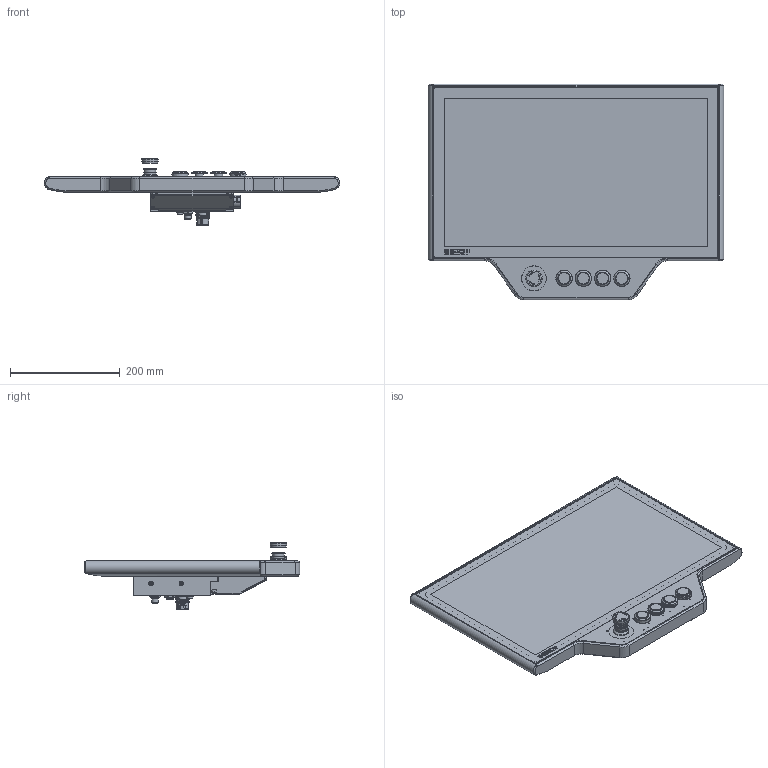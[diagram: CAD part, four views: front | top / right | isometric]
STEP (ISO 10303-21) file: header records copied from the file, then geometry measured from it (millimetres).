
FILE_DESCRIPTION(/* description */ ('-'),/* implementation_level */ '2;1');
FILE_NAME(/* name */ 'C:\Export\0000014433.stp',/* time_stamp */ '2023-03-09T12:11:35+01:00',/* author */ ('-'),/* organization */ ('(c) Beckhoff Automation GmbH & Co. KG, 33415 Verl'),/* preprocessor_version */ 'ST-DEVELOPER v18.1',/* originating_system */ 'Autodesk Inventor 2022',/* authorisation */ '-');
FILE_SCHEMA (('AUTOMOTIVE_DESIGN { 1 0 10303 214 3 1 1 }'));
Products named in the file (1): 0000014433_CP3921-0000-G05x-M338-E274
Bounding box: 537.14 x 392.75 x 122.13 mm (x, y, z)
Volume: 6286884.5 mm3; surface area: 561041.1 mm2
Topology: 7 solids, 57 shells, 3049 faces, 7580 edges, 4868 vertices
Faces by surface type: plane 1275, cylinder 985, bspline 454, torus 163, cone 149, sphere 23
Full cylindrical faces by diameter (mm): 1 x4, 1.2 x4, 1.5 x1, 2.459 x19, 2.5 x4, 2.693 x6, 3 x9, 3.2 x8, 3.242 x4, 3.4 x6, 3.8 x1, 4 x2, 4.143 x4, 4.25 x3, 4.917 x4, 5 x4, 5.5 x14, 5.7 x2, 7 x2, 8 x2, 8.3 x1, 8.5 x6, 9 x4, 10 x1, 10.5 x1, 11.92 x1, 12 x2, 15 x4, 15.3 x1, 16.469 x1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
Entity records: 119462 total; most frequent: CARTESIAN_POINT 44449, ORIENTED_EDGE 15116, DIRECTION 14665, EDGE_CURVE 7558, AXIS2_PLACEMENT_3D 5447, VERTEX_POINT 4867, LINE 3771, VECTOR 3771
